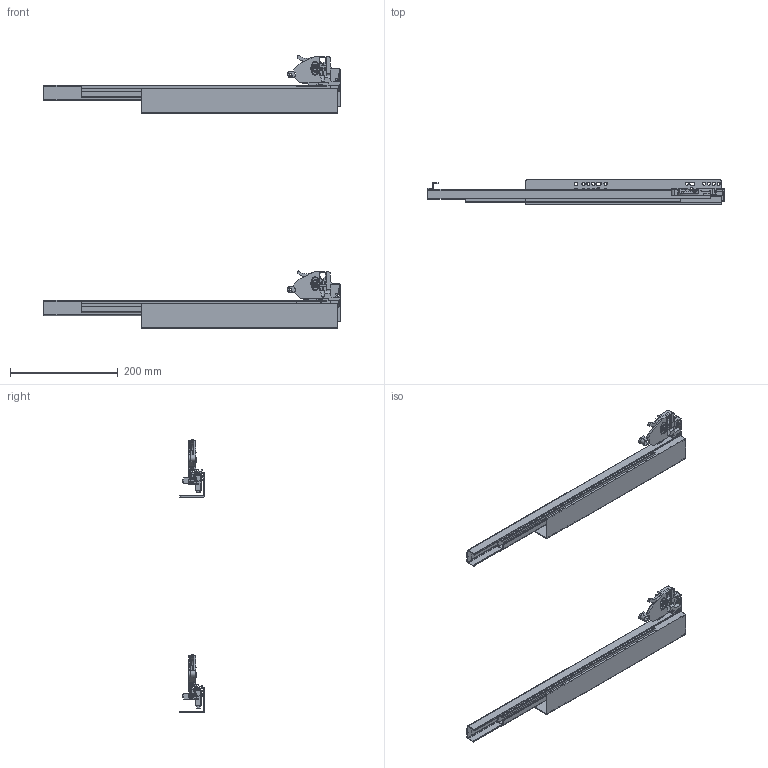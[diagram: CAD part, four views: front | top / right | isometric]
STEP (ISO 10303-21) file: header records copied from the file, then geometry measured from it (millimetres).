
FILE_DESCRIPTION(/* description */ (''),/* implementation_level */ '2;1');
FILE_NAME(/* name */ 'C:\Users\dmitruk\Documents\WORK\НАПРАВЛЯЮЩИЕ\Скрытого монтажаНаправляющие скрытого монтажа 3D-550.stp',/* time_stamp */ '2022-07-29T12:20:39+03:00',/* author */ ('dmitruk'),/* organization */ (''),/* preprocessor_version */ 'ST-DEVELOPER v16.5',/* originating_system */ 'Autodesk Inventor 2017',/* authorisation */ '');
FILE_SCHEMA (('AUTOMOTIVE_DESIGN { 1 0 10303 214 3 1 1 }'));
Length unit declared in the file: millimetre
Products named in the file (6): Направляющие \X2\0441043A
0440044B0442043E0433043E\X0\ монтажа 3D; Направляющие \X2\0441043A
0440044B0442043E0433043E\X0\ монтажа 3D \X2\043F
044004300432\X0\; 3D CP; 3D DP; Крепление 3D \X2\043B
04350432\X0\; 3D Направляющие \X2\0441043A
0440044B0442043E0433043E\X0\ монтажа \X2\043F
043E043B043D043E0433043E\X0\ \X2\0432044B04340432043804360435043D0438044F
\X0\ slim DW slim slide
Assembly tree (6 placements, depth 3):
  Направляющие \X2\0441043A
0440044B0442043E0433043E\X0\ монтажа 3D
    Направляющие \X2\0441043A
0440044B0442043E0433043E\X0\ монтажа 3D \X2\043F
044004300432\X0\  x2
      3D CP
      3D DP
      Крепление 3D \X2\043B
04350432\X0\
      3D Направляющие \X2\0441043A
0440044B0442043E0433043E\X0\ монтажа \X2\043F
043E043B043D043E0433043E\X0\ \X2\0432044B04340432043804360435043D0438044F
\X0\ slim DW slim slide
Bounding box: 550 x 46 x 506.67 mm (x, y, z)
Volume: 345290.7 mm3; surface area: 447439 mm2
Topology: 24 solids, 24 shells, 982 faces, 2774 edges, 1826 vertices
Faces by surface type: plane 772, cylinder 196, cone 6, sphere 4, bspline 2, torus 2
Full cylindrical faces by diameter (mm): 3.8 x10, 6 x40, 7 x2, 12 x4
Entity records: 16097 total; most frequent: CARTESIAN_POINT 2925, ORIENTED_EDGE 2710, DIRECTION 2569, EDGE_CURVE 1352, LINE 1127, VECTOR 1127, VERTEX_POINT 909, AXIS2_PLACEMENT_3D 721
